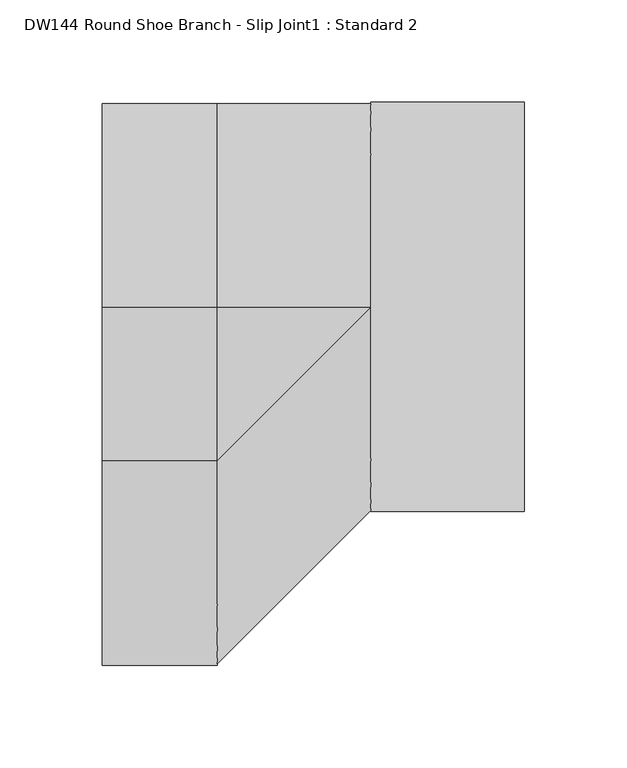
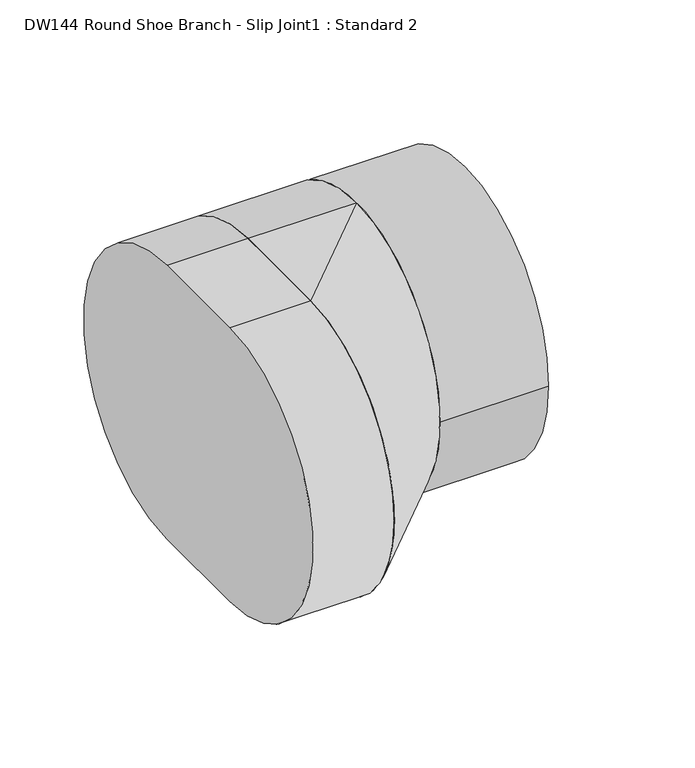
"""IFC4 building model written with IfcOpenShell, lengths in millimetres: duct fitting geometry, DW144 Round Shoe Branch - Slip Joint1 : Standard 2."""

from ifc_helpers import new_model, si_unit, point, frame, frame_2d, origin, origin_2d, place, context, project, spatial, polyline, circle_curve, trimmed, segment, composite_curve, outline, extrude, source, transform, mapped, element, save
from ifc_brep_helpers import plane_surface, cylinder_surface, extruded_surface, advanced_brep


def dw144_round_shoe_branch_slip_joint1_standard_2_15a2edd8(model_context):
    return source(origin(), model_context, "Body", "SolidModel", [
        extrude(outline(composite_curve([segment(trimmed(circle_curve(origin_2d(), 100.0), [point((-100.0, 0.0))], [point((100.0, 0.0))], False, "CARTESIAN"), True, "CONTINUOUS"), segment(trimmed(circle_curve(origin_2d(), 100.0), [point((100.0, 0.0))], [point((-100.0, 0.0))], False, "CARTESIAN"), True, "CONTINUOUS")], self_intersect=False)), frame((75.0, 0.0, 0.0), z_axis=(1.0, 0.0, 0.0), x_axis=(0.0, 1.0, 0.0)), (0.0, 0.0, 1.0), 75.0),
        advanced_brep(
        [(75.0, 0.0, -100.0), (75.0, 0.0, 100.0), (0.0, 0.0, -100.0), (0.0, -75.0, -100.0), (0.0, -75.0, 100.0), (0.0, 0.0, 100.0)],
        [
            (0, 1, circle_curve(frame((75.0, 0.0, 0.0), z_axis=(1.0, 0.0, 0.0), x_axis=(0.0, 1.0, 0.0)), 100.0)),
            (1, 0, circle_curve(frame((75.0, 0.0, 0.0), z_axis=(1.0, 0.0, 0.0), x_axis=(0.0, 1.0, 0.0)), 100.0)),
            (2, 3),
            (3, 4, circle_curve(frame((0.0, -75.0, 0.0), z_axis=(-1.0, 0.0, 0.0), x_axis=(0.0, 1.0, 0.0)), 100.0)),
            (4, 5),
            (5, 2, circle_curve(frame((0.0, 0.0, 0.0), z_axis=(-1.0, 0.0, 0.0), x_axis=(0.0, 1.0, 0.0)), 100.0)),
            (5, 1),
            (0, 2),
            (4, 1),
            (3, 0),
        ],
        [
            plane_surface(frame((75.0, 0.0, 0.0), z_axis=(1.0, 0.0, 0.0), x_axis=(0.0, 1.0, 0.0))),
            plane_surface(frame((0.0, -37.5, 0.0), z_axis=(-1.0, 0.0, 0.0), x_axis=(0.0, 1.0, 0.0))),
            cylinder_surface(frame((0.0, 0.0, 0.0), z_axis=(1.0, 0.0, 0.0), x_axis=(0.0, 1.0, 0.0)), 100.0),
            plane_surface(frame((0.0, -37.5, 100.0), z_axis=(0.0, 0.0, 1.0), x_axis=(0.0, -1.0, 0.0))),
            extruded_surface(trimmed(circle_curve(frame((0.0, -75.0, 0.0), z_axis=(1.0, 0.0, 0.0), x_axis=(0.0, 1.0, 0.0)), 100.0), [point((0.0, -75.0, 100.0))], [point((0.0, -75.0, -100.0))], True, "CARTESIAN"), (75.0, 75.0, 0.0), 106.06601717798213),
            plane_surface(frame((0.0, -37.5, -100.0), z_axis=(0.0, 0.0, -1.0), x_axis=(0.0, 1.0, 0.0))),
        ],
        [
            (0, [[1, 2]]),
            (1, [[3, 4, 5, 6]]),
            (2, [[-6, 7, -1, 8]]),
            (3, [[-5, 9, -7]]),
            (4, [[-4, 10, -2, -9]]),
            (5, [[-3, -8, -10]]),
        ],
    ),
        extrude(outline(composite_curve([segment(polyline([(0.0, -100.0), (-75.0, -100.0)]), True, "CONTINUOUS"), segment(trimmed(circle_curve(frame_2d((-75.0, 0.0)), 100.0), [point((-75.0, -100.0))], [point((-75.0, 100.0))], False, "CARTESIAN"), True, "CONTINUOUS"), segment(polyline([(-75.0, 100.0), (0.0, 100.0)]), True, "CONTINUOUS"), segment(trimmed(circle_curve(origin_2d(), 100.0), [point((0.0, 100.0))], [point((0.0, -100.0))], False, "CARTESIAN"), True, "CONTINUOUS")], self_intersect=False)), frame((-56.096, 0.0, 0.0), z_axis=(1.0, 0.0, 0.0), x_axis=(0.0, 1.0, 0.0)), (0.0, 0.0, 1.0), 56.096),
    ])


if __name__ == "__main__":
    model = new_model("IFC4")
    model_context = context("Model", 3, world=origin())
    ifc_project = project(units=[si_unit("LENGTHUNIT", "METRE", prefix="MILLI")], contexts=[model_context])
    site = spatial("IfcSite", under=ifc_project)
    building = spatial("IfcBuilding", under=site)
    placement = place(None, origin())
    dw144_round_shoe_branch_slip_joint1_standard_2_shape = dw144_round_shoe_branch_slip_joint1_standard_2_15a2edd8(model_context)
    element("IfcDuctFitting", 1, ObjectType="DW144 Round Shoe Branch - Slip Joint1 : Standard 2", at=placement, inside=building, context=model_context, shape_type="MappedRepresentation", body=[
        mapped(dw144_round_shoe_branch_slip_joint1_standard_2_shape, transform((0.0, 0.0, 0.0), x_axis=(1.0, 0.0, 0.0), y_axis=(0.0, 1.0, 0.0), z_axis=(0.0, 0.0, 1.0))),
    ])
    save(model, "model.ifc")
